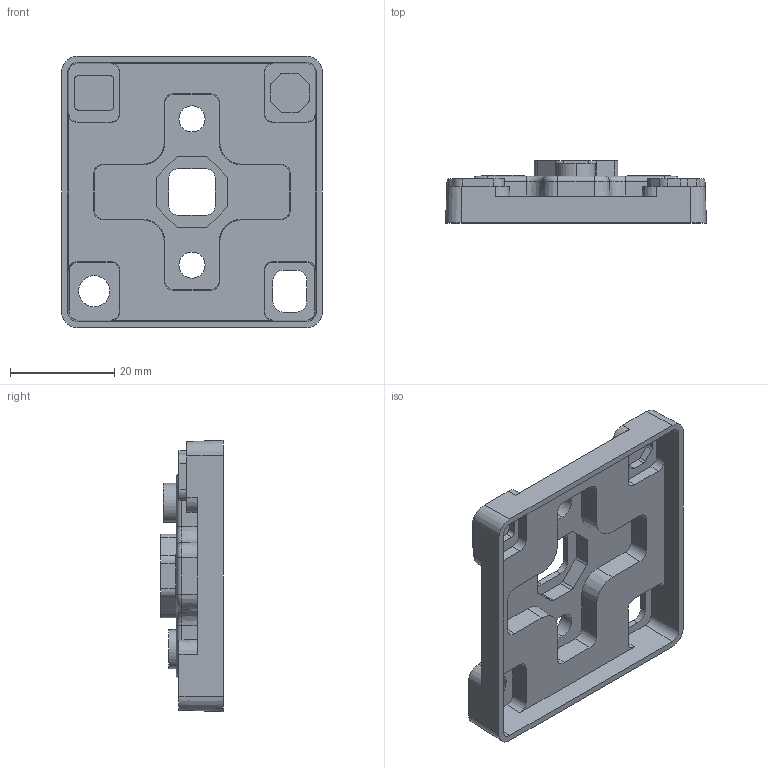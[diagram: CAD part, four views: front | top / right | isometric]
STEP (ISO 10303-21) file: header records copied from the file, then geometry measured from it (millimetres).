
FILE_DESCRIPTION (( 'STEP AP203' ), '1' );
FILE_NAME ('1.stp', '2018-09-08T12:40:50', ( 'User' ), ( 'User' ), 'SwSTEP 2.0', 'SolidWorks 2014', '' );
FILE_SCHEMA (( 'CONFIG_CONTROL_DESIGN' ));
Length unit declared in the file: millimetre
Products named in the file (1): 1
Bounding box: 50 x 12 x 52 mm (x, y, z)
Volume: 5287.6 mm3; surface area: 9158.7 mm2
Topology: 1 solids, 1 shells, 274 faces, 753 edges, 494 vertices
Faces by surface type: plane 129, cylinder 77, cone 56, torus 12
Entity records: 8860 total; most frequent: DIRECTION 1581, CARTESIAN_POINT 1522, ORIENTED_EDGE 1506, EDGE_CURVE 753, AXIS2_PLACEMENT_3D 553, VERTEX_POINT 494, LINE 475, VECTOR 475
